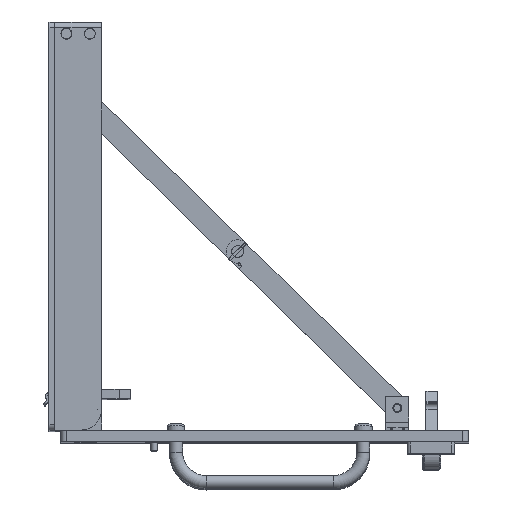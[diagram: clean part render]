
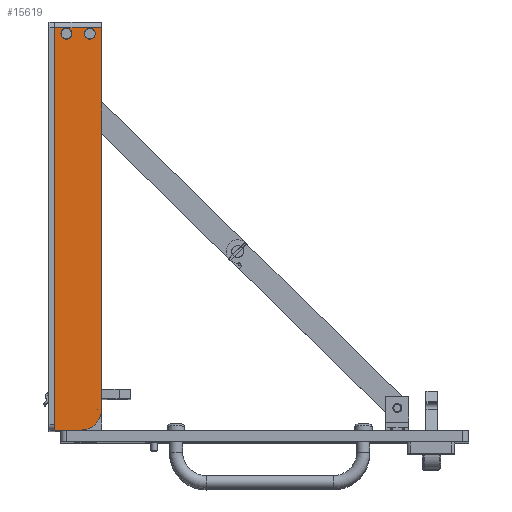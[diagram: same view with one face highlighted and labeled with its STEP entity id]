
A CAD part, top view. The second image highlights one B-rep face of the part: STEP entity #15619.
In plain terms, the highlighted planar face has unit normal (0, 0, 1).
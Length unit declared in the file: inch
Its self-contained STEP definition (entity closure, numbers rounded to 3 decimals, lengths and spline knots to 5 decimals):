
#15010=CARTESIAN_POINT('',(0.6209,5.81292,3.56557));
#15011=VERTEX_POINT('',#15010);
#15026=CARTESIAN_POINT('',(0.6209,-2.78083,3.56557));
#15027=VERTEX_POINT('',#15026);
#15034=CARTESIAN_POINT('',(0.6209,5.81292,3.56557));
#15035=DIRECTION('',(0.0,-1.0,0.0));
#15036=VECTOR('',#15035,8.59375);
#15037=LINE('',#15034,#15036);
#15038=EDGE_CURVE('',#15011,#15027,#15037,.T.);
#15126=CARTESIAN_POINT('',(1.52715,-2.34283,3.56557));
#15127=VERTEX_POINT('',#15126);
#15128=CARTESIAN_POINT('',(1.52715,-2.34333,3.56557));
#15129=DIRECTION('',(0.0,0.0,-1.0));
#15130=DIRECTION('',(0.0,-1.0,0.0));
#15131=AXIS2_PLACEMENT_3D('',#15128,#15129,#15130);
#15132=CIRCLE('',#15131,0.0005);
#15133=EDGE_CURVE('',#15127,#15127,#15132,.T.);
#15147=CARTESIAN_POINT('',(1.6209,5.81292,3.56557));
#15148=VERTEX_POINT('',#15147);
#15149=CARTESIAN_POINT('',(0.6209,5.81292,3.56557));
#15150=DIRECTION('',(1.0,0.0,0.0));
#15151=VECTOR('',#15150,1.0);
#15152=LINE('',#15149,#15151);
#15153=EDGE_CURVE('',#15011,#15148,#15152,.T.);
#15196=CARTESIAN_POINT('',(1.6209,-2.34333,3.56557));
#15197=VERTEX_POINT('',#15196);
#15198=CARTESIAN_POINT('',(1.6209,-2.34333,3.56557));
#15199=DIRECTION('',(0.0,1.0,0.0));
#15200=VECTOR('',#15199,8.15625);
#15201=LINE('',#15198,#15200);
#15202=EDGE_CURVE('',#15197,#15148,#15201,.T.);
#15521=CARTESIAN_POINT('',(1.25371,5.68792,3.56557));
#15522=VERTEX_POINT('',#15521);
#15523=CARTESIAN_POINT('',(1.3709,5.68792,3.56557));
#15524=DIRECTION('',(0.0,0.0,-1.0));
#15525=DIRECTION('',(-1.0,0.0,0.0));
#15526=AXIS2_PLACEMENT_3D('',#15523,#15524,#15525);
#15527=CIRCLE('',#15526,0.11719);
#15528=EDGE_CURVE('',#15522,#15522,#15527,.T.);
#15541=CARTESIAN_POINT('',(0.75371,5.68792,3.56557));
#15542=VERTEX_POINT('',#15541);
#15543=CARTESIAN_POINT('',(0.8709,5.68792,3.56557));
#15544=DIRECTION('',(0.0,0.0,-1.0));
#15545=DIRECTION('',(-1.0,0.0,0.0));
#15546=AXIS2_PLACEMENT_3D('',#15543,#15544,#15545);
#15547=CIRCLE('',#15546,0.11719);
#15548=EDGE_CURVE('',#15542,#15542,#15547,.T.);
#15562=CARTESIAN_POINT('',(1.1834,-2.78083,3.56557));
#15563=VERTEX_POINT('',#15562);
#15570=CARTESIAN_POINT('',(0.6209,-2.78083,3.56557));
#15571=DIRECTION('',(1.0,0.0,0.0));
#15572=VECTOR('',#15571,0.5625);
#15573=LINE('',#15570,#15572);
#15574=EDGE_CURVE('',#15027,#15563,#15573,.T.);
#15587=CARTESIAN_POINT('',(1.1834,-2.34333,3.56557));
#15588=DIRECTION('',(0.0,0.0,1.0));
#15589=DIRECTION('',(-1.0,0.0,0.0));
#15590=AXIS2_PLACEMENT_3D('',#15587,#15588,#15589);
#15591=CIRCLE('',#15590,0.4375);
#15592=EDGE_CURVE('',#15563,#15197,#15591,.T.);
#15598=CARTESIAN_POINT('',(1.1151,1.62199,3.56557));
#15599=DIRECTION('',(0.0,0.0,-1.0));
#15600=DIRECTION('',(0.0,-1.0,0.0));
#15601=AXIS2_PLACEMENT_3D('',#15598,#15599,#15600);
#15602=PLANE('',#15601);
#15603=ORIENTED_EDGE('',*,*,#15153,.F.);
#15604=ORIENTED_EDGE('',*,*,#15038,.T.);
#15605=ORIENTED_EDGE('',*,*,#15574,.T.);
#15606=ORIENTED_EDGE('',*,*,#15592,.T.);
#15607=ORIENTED_EDGE('',*,*,#15202,.T.);
#15608=EDGE_LOOP('',(#15603,#15604,#15605,#15606,#15607));
#15609=FACE_OUTER_BOUND('',#15608,.T.);
#15610=ORIENTED_EDGE('',*,*,#15133,.T.);
#15611=EDGE_LOOP('',(#15610));
#15612=FACE_BOUND('',#15611,.T.);
#15613=ORIENTED_EDGE('',*,*,#15528,.T.);
#15614=EDGE_LOOP('',(#15613));
#15615=FACE_BOUND('',#15614,.T.);
#15616=ORIENTED_EDGE('',*,*,#15548,.T.);
#15617=EDGE_LOOP('',(#15616));
#15618=FACE_BOUND('',#15617,.T.);
#15619=ADVANCED_FACE('',(#15609,#15612,#15615,#15618),#15602,.F.);
